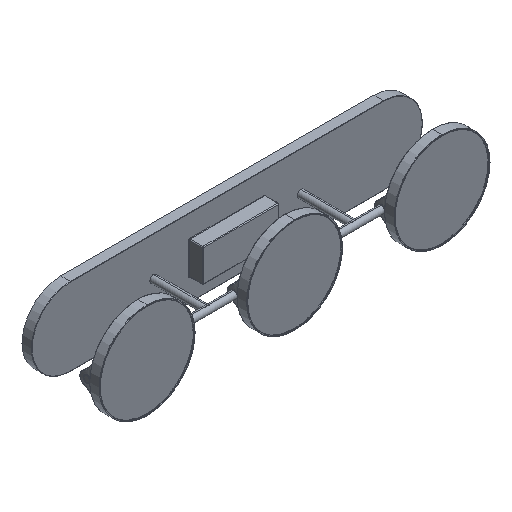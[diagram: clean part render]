
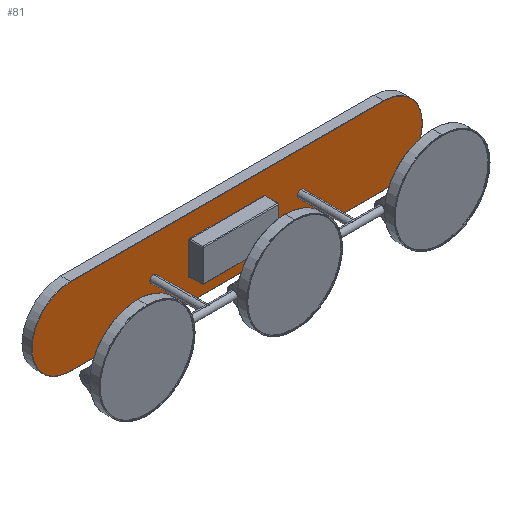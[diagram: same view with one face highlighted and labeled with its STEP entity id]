
A CAD part, isometric view. The second image highlights one B-rep face of the part: STEP entity #81.
In plain terms, the highlighted planar face has unit normal (0, -1, 0).
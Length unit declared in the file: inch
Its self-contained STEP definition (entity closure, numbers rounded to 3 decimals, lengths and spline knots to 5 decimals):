
#38 = CIRCLE ( 'NONE', #2676, 2.08661 ) ;
#81 = ADVANCED_FACE ( 'NONE', ( #886, #3048, #1551, #734 ), #1953, .F. ) ;
#138 = DIRECTION ( 'NONE',  ( 0., 1., 0. ) ) ;
#155 = CARTESIAN_POINT ( 'NONE',  ( -8.48425, 0., 0. ) ) ;
#174 = DIRECTION ( 'NONE',  ( 0., 0., 1. ) ) ;
#184 = CARTESIAN_POINT ( 'NONE',  ( 3.99606, 0., 0. ) ) ;
#215 = CARTESIAN_POINT ( 'NONE',  ( 3.99606, 0., -0.19685 ) ) ;
#232 = CARTESIAN_POINT ( 'NONE',  ( 2.02756, 0., 0.84646 ) ) ;
#307 = CARTESIAN_POINT ( 'NONE',  ( -2.02756, 0., -0.84646 ) ) ;
#309 = VERTEX_POINT ( 'NONE', #1120 ) ;
#345 = DIRECTION ( 'NONE',  ( 0., 1., 0. ) ) ;
#367 = CARTESIAN_POINT ( 'NONE',  ( -2.08661, 0., -0.84646 ) ) ;
#368 = VERTEX_POINT ( 'NONE', #215 ) ;
#412 = DIRECTION ( 'NONE',  ( 0., 0., 1. ) ) ;
#459 = ORIENTED_EDGE ( 'NONE', *, *, #882, .F. ) ;
#486 = ORIENTED_EDGE ( 'NONE', *, *, #1839, .F. ) ;
#540 = CARTESIAN_POINT ( 'NONE',  ( 2.08661, 0., 0.84646 ) ) ;
#543 = VERTEX_POINT ( 'NONE', #2716 ) ;
#565 = DIRECTION ( 'NONE',  ( 0., -1., 0. ) ) ;
#575 = VECTOR ( 'NONE', #2567, 39.37008 ) ;
#609 = AXIS2_PLACEMENT_3D ( 'NONE', #232, #1172, #2355 ) ;
#670 = EDGE_CURVE ( 'NONE', #368, #3656, #1640, .T. ) ;
#734 = FACE_OUTER_BOUND ( 'NONE', #2485, .T. ) ;
#761 = DIRECTION ( 'NONE',  ( 0., -1., 0. ) ) ;
#790 = EDGE_CURVE ( 'NONE', #3167, #543, #2359, .T. ) ;
#810 = ORIENTED_EDGE ( 'NONE', *, *, #1156, .T. ) ;
#855 = DIRECTION ( 'NONE',  ( 0., -1., 0. ) ) ;
#870 = ORIENTED_EDGE ( 'NONE', *, *, #1353, .T. ) ;
#882 = EDGE_CURVE ( 'NONE', #3895, #2299, #3416, .T. ) ;
#886 = FACE_BOUND ( 'NONE', #2305, .T. ) ;
#903 = CARTESIAN_POINT ( 'NONE',  ( -8.48425, 0., 2.08661 ) ) ;
#949 = EDGE_CURVE ( 'NONE', #309, #3406, #2204, .T. ) ;
#952 = CIRCLE ( 'NONE', #3548, 0.05906 ) ;
#997 = VERTEX_POINT ( 'NONE', #367 ) ;
#1012 = CARTESIAN_POINT ( 'NONE',  ( -2.08661, 0., 0.84646 ) ) ;
#1050 = ORIENTED_EDGE ( 'NONE', *, *, #1233, .T. ) ;
#1061 = DIRECTION ( 'NONE',  ( 0., -1., 0. ) ) ;
#1088 = CIRCLE ( 'NONE', #3134, 0.19685 ) ;
#1101 = AXIS2_PLACEMENT_3D ( 'NONE', #1354, #1061, #2232 ) ;
#1120 = CARTESIAN_POINT ( 'NONE',  ( -8.48425, 0., 2.08661 ) ) ;
#1140 = CARTESIAN_POINT ( 'NONE',  ( 3.99606, 0., 0. ) ) ;
#1156 = EDGE_CURVE ( 'NONE', #2694, #3155, #38, .T. ) ;
#1159 = ORIENTED_EDGE ( 'NONE', *, *, #3070, .T. ) ;
#1172 = DIRECTION ( 'NONE',  ( 0., 1., 0. ) ) ;
#1189 = CARTESIAN_POINT ( 'NONE',  ( -8.48425, 0., 0. ) ) ;
#1190 = LINE ( 'NONE', #3203, #575 ) ;
#1233 = EDGE_CURVE ( 'NONE', #543, #3746, #1633, .T. ) ;
#1261 = DIRECTION ( 'NONE',  ( 0., -1., 0. ) ) ;
#1283 = CARTESIAN_POINT ( 'NONE',  ( 2.08661, 0., -0.84646 ) ) ;
#1299 = CARTESIAN_POINT ( 'NONE',  ( -3.99606, 0., -0.19685 ) ) ;
#1320 = VECTOR ( 'NONE', #2097, 39.37008 ) ;
#1331 = DIRECTION ( 'NONE',  ( 0., 0., 1. ) ) ;
#1344 = CARTESIAN_POINT ( 'NONE',  ( -2.08661, 0., 0.84646 ) ) ;
#1351 = CARTESIAN_POINT ( 'NONE',  ( 2.02756, 0., -0.90551 ) ) ;
#1353 = EDGE_CURVE ( 'NONE', #1688, #997, #3252, .T. ) ;
#1354 = CARTESIAN_POINT ( 'NONE',  ( -3.99606, 0., 0. ) ) ;
#1392 = CARTESIAN_POINT ( 'NONE',  ( 8.48425, 0., 0. ) ) ;
#1463 = VECTOR ( 'NONE', #3866, 39.37008 ) ;
#1512 = DIRECTION ( 'NONE',  ( 0., 0., 1. ) ) ;
#1551 = FACE_BOUND ( 'NONE', #2890, .T. ) ;
#1562 = LINE ( 'NONE', #1344, #2511 ) ;
#1630 = ORIENTED_EDGE ( 'NONE', *, *, #670, .F. ) ;
#1633 = LINE ( 'NONE', #1995, #1463 ) ;
#1640 = CIRCLE ( 'NONE', #3794, 0.19685 ) ;
#1656 = DIRECTION ( 'NONE',  ( 0., 0., 1. ) ) ;
#1688 = VERTEX_POINT ( 'NONE', #1751 ) ;
#1691 = DIRECTION ( 'NONE',  ( 0., 0., 1. ) ) ;
#1727 = VERTEX_POINT ( 'NONE', #540 ) ;
#1751 = CARTESIAN_POINT ( 'NONE',  ( -2.02756, 0., -0.90551 ) ) ;
#1786 = CARTESIAN_POINT ( 'NONE',  ( 3.99606, 0., 0.19685 ) ) ;
#1819 = EDGE_CURVE ( 'NONE', #3746, #1727, #1893, .T. ) ;
#1839 = EDGE_CURVE ( 'NONE', #3656, #368, #1088, .T. ) ;
#1893 = CIRCLE ( 'NONE', #609, 0.05906 ) ;
#1932 = CARTESIAN_POINT ( 'NONE',  ( 2.02756, 0., -0.84646 ) ) ;
#1953 = PLANE ( 'NONE',  #3388 ) ;
#1995 = CARTESIAN_POINT ( 'NONE',  ( 2.02756, 0., 0.90551 ) ) ;
#2010 = AXIS2_PLACEMENT_3D ( 'NONE', #3092, #1261, #2493 ) ;
#2016 = EDGE_CURVE ( 'NONE', #2782, #3467, #952, .T. ) ;
#2049 = ORIENTED_EDGE ( 'NONE', *, *, #1819, .T. ) ;
#2097 = DIRECTION ( 'NONE',  ( -1., 0., 0. ) ) ;
#2099 = DIRECTION ( 'NONE',  ( 0., 0., 1. ) ) ;
#2124 = AXIS2_PLACEMENT_3D ( 'NONE', #2740, #345, #3776 ) ;
#2138 = CARTESIAN_POINT ( 'NONE',  ( -3.99606, 0., 0.19685 ) ) ;
#2204 = CIRCLE ( 'NONE', #3572, 2.08661 ) ;
#2211 = DIRECTION ( 'NONE',  ( 1., 0., 0. ) ) ;
#2224 = VECTOR ( 'NONE', #2211, 39.37008 ) ;
#2232 = DIRECTION ( 'NONE',  ( 0., 0., 1. ) ) ;
#2299 = VERTEX_POINT ( 'NONE', #2138 ) ;
#2305 = EDGE_LOOP ( 'NONE', ( #1050, #2049, #1159, #2528, #3555, #870, #2877, #3444 ) ) ;
#2355 = DIRECTION ( 'NONE',  ( 0., 0., 1. ) ) ;
#2359 = CIRCLE ( 'NONE', #2124, 0.05906 ) ;
#2485 = EDGE_LOOP ( 'NONE', ( #810, #3404, #2746, #3662 ) ) ;
#2493 = DIRECTION ( 'NONE',  ( 0., 0., 1. ) ) ;
#2511 = VECTOR ( 'NONE', #1331, 39.37008 ) ;
#2514 = CARTESIAN_POINT ( 'NONE',  ( 8.48425, 0., -2.08661 ) ) ;
#2528 = ORIENTED_EDGE ( 'NONE', *, *, #2016, .T. ) ;
#2545 = EDGE_LOOP ( 'NONE', ( #3260, #459 ) ) ;
#2567 = DIRECTION ( 'NONE',  ( 0., 0., -1. ) ) ;
#2676 = AXIS2_PLACEMENT_3D ( 'NONE', #1392, #761, #1691 ) ;
#2694 = VERTEX_POINT ( 'NONE', #2514 ) ;
#2708 = DIRECTION ( 'NONE',  ( 0., 0., 1. ) ) ;
#2716 = CARTESIAN_POINT ( 'NONE',  ( -2.02756, 0., 0.90551 ) ) ;
#2740 = CARTESIAN_POINT ( 'NONE',  ( -2.02756, 0., 0.84646 ) ) ;
#2746 = ORIENTED_EDGE ( 'NONE', *, *, #949, .T. ) ;
#2767 = VECTOR ( 'NONE', #3786, 39.37008 ) ;
#2782 = VERTEX_POINT ( 'NONE', #1283 ) ;
#2811 = LINE ( 'NONE', #3481, #2767 ) ;
#2845 = CARTESIAN_POINT ( 'NONE',  ( -8.48425, 0., -2.08661 ) ) ;
#2853 = DIRECTION ( 'NONE',  ( 0., 1., 0. ) ) ;
#2857 = CARTESIAN_POINT ( 'NONE',  ( 8.48425, 0., 2.08661 ) ) ;
#2877 = ORIENTED_EDGE ( 'NONE', *, *, #3385, .T. ) ;
#2890 = EDGE_LOOP ( 'NONE', ( #486, #1630 ) ) ;
#3048 = FACE_BOUND ( 'NONE', #2545, .T. ) ;
#3070 = EDGE_CURVE ( 'NONE', #1727, #2782, #1190, .T. ) ;
#3082 = CARTESIAN_POINT ( 'NONE',  ( 2.02756, 0., 0.90551 ) ) ;
#3092 = CARTESIAN_POINT ( 'NONE',  ( -3.99606, 0., 0. ) ) ;
#3104 = LINE ( 'NONE', #903, #1320 ) ;
#3134 = AXIS2_PLACEMENT_3D ( 'NONE', #1140, #565, #2708 ) ;
#3137 = CARTESIAN_POINT ( 'NONE',  ( -8.48425, 0., -2.08661 ) ) ;
#3155 = VERTEX_POINT ( 'NONE', #2857 ) ;
#3167 = VERTEX_POINT ( 'NONE', #1012 ) ;
#3177 = EDGE_CURVE ( 'NONE', #3467, #1688, #2811, .T. ) ;
#3203 = CARTESIAN_POINT ( 'NONE',  ( 2.08661, 0., -0.84646 ) ) ;
#3223 = DIRECTION ( 'NONE',  ( 0., -1., 0. ) ) ;
#3252 = CIRCLE ( 'NONE', #3413, 0.05906 ) ;
#3260 = ORIENTED_EDGE ( 'NONE', *, *, #3869, .F. ) ;
#3341 = EDGE_CURVE ( 'NONE', #3406, #2694, #3386, .T. ) ;
#3385 = EDGE_CURVE ( 'NONE', #997, #3167, #1562, .T. ) ;
#3386 = LINE ( 'NONE', #3137, #2224 ) ;
#3388 = AXIS2_PLACEMENT_3D ( 'NONE', #155, #138, #1656 ) ;
#3404 = ORIENTED_EDGE ( 'NONE', *, *, #3736, .T. ) ;
#3406 = VERTEX_POINT ( 'NONE', #2845 ) ;
#3413 = AXIS2_PLACEMENT_3D ( 'NONE', #307, #3951, #1512 ) ;
#3416 = CIRCLE ( 'NONE', #1101, 0.19685 ) ;
#3444 = ORIENTED_EDGE ( 'NONE', *, *, #790, .T. ) ;
#3467 = VERTEX_POINT ( 'NONE', #1351 ) ;
#3481 = CARTESIAN_POINT ( 'NONE',  ( -2.02756, 0., -0.90551 ) ) ;
#3548 = AXIS2_PLACEMENT_3D ( 'NONE', #1932, #2853, #412 ) ;
#3555 = ORIENTED_EDGE ( 'NONE', *, *, #3177, .T. ) ;
#3572 = AXIS2_PLACEMENT_3D ( 'NONE', #1189, #855, #2099 ) ;
#3656 = VERTEX_POINT ( 'NONE', #1786 ) ;
#3662 = ORIENTED_EDGE ( 'NONE', *, *, #3341, .T. ) ;
#3736 = EDGE_CURVE ( 'NONE', #3155, #309, #3104, .T. ) ;
#3746 = VERTEX_POINT ( 'NONE', #3082 ) ;
#3776 = DIRECTION ( 'NONE',  ( 0., 0., 1. ) ) ;
#3786 = DIRECTION ( 'NONE',  ( -1., 0., 0. ) ) ;
#3794 = AXIS2_PLACEMENT_3D ( 'NONE', #184, #3223, #174 ) ;
#3862 = CIRCLE ( 'NONE', #2010, 0.19685 ) ;
#3866 = DIRECTION ( 'NONE',  ( 1., 0., 0. ) ) ;
#3869 = EDGE_CURVE ( 'NONE', #2299, #3895, #3862, .T. ) ;
#3895 = VERTEX_POINT ( 'NONE', #1299 ) ;
#3951 = DIRECTION ( 'NONE',  ( 0., 1., 0. ) ) ;
